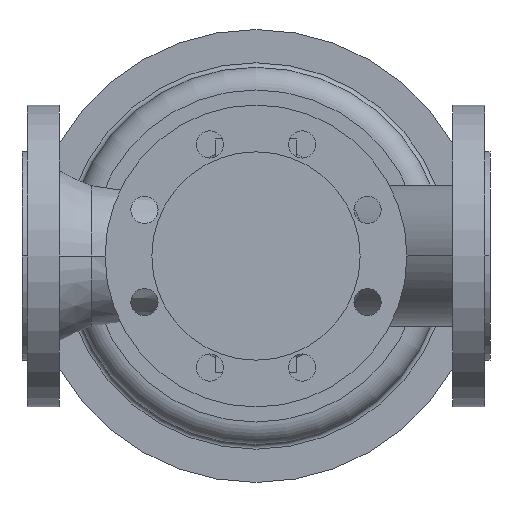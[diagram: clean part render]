
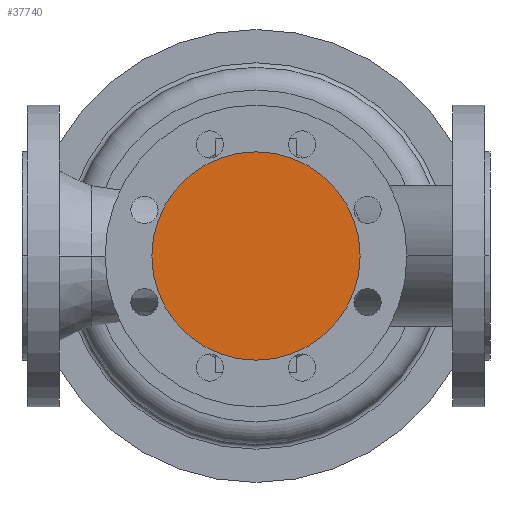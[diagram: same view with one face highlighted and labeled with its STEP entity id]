
A CAD part, front view. The second image highlights one B-rep face of the part: STEP entity #37740.
In plain terms, the highlighted planar face has unit normal (0, -1, 0).
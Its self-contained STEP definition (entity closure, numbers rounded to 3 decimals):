
#5710=CARTESIAN_POINT('',(224.,-130.,0.));
#5720=VERTEX_POINT('',#5710);
#5880=CARTESIAN_POINT('',(86.,-130.,0.));
#5890=VERTEX_POINT('',#5880);
#5920=CARTESIAN_POINT('',(155.,-130.,0.));
#5930=DIRECTION('',(0.,1.,0.));
#5940=DIRECTION('',(1.,0.,0.));
#5950=AXIS2_PLACEMENT_3D('',#5920,#5930,#5940);
#5960=CIRCLE('',#5950,69.);
#5970=EDGE_CURVE('',#5720,#5890,#5960,.T.);
#37640=CARTESIAN_POINT('',(189.5,-130.,0.));
#37650=DIRECTION('',(0.,-1.,0.));
#37660=DIRECTION('',(-1.,0.,0.));
#37670=AXIS2_PLACEMENT_3D('',#37640,#37650,#37660);
#37680=PLANE('',#37670);
#37690=EDGE_CURVE('',#5890,#5720,#5960,.T.);
#37700=ORIENTED_EDGE('',*,*,#37690,.F.);
#37710=ORIENTED_EDGE('',*,*,#5970,.F.);
#37720=EDGE_LOOP('',(#37710,#37700));
#37730=FACE_OUTER_BOUND('',#37720,.T.);
#37740=ADVANCED_FACE('',(#37730),#37680,.T.);
